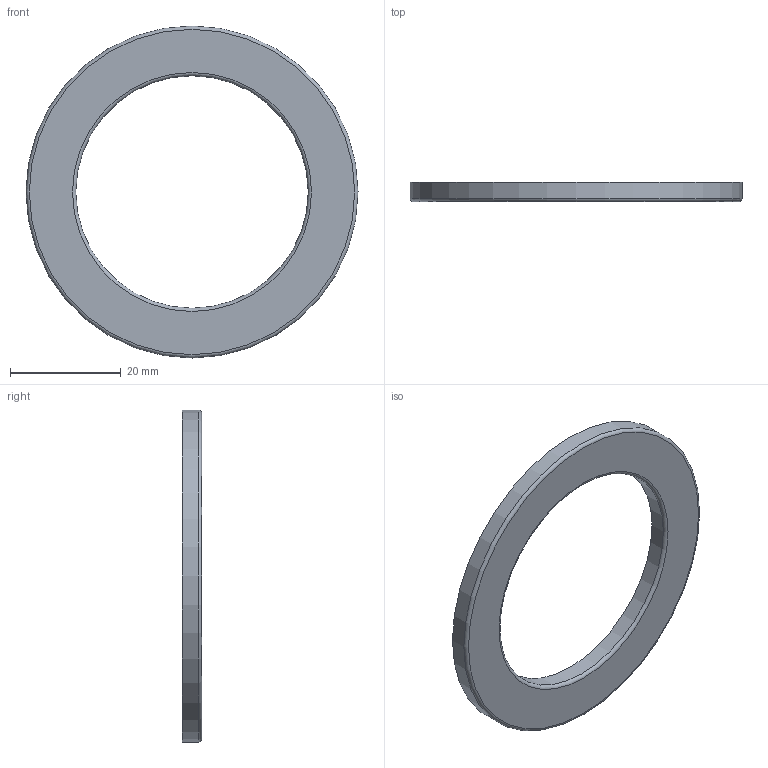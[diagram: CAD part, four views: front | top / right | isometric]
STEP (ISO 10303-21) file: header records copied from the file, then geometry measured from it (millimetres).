
FILE_DESCRIPTION(/* description */ (''),/* implementation_level */ '2;1');
FILE_NAME(/* name */ 'D:\moje\parametrické\811--\GS811--\GS81108.stp',/* time_stamp */ '2016-09-20T09:27:06+02:00',/* author */ ('OUBALASKO'),/* organization */ (''),/* preprocessor_version */ 'ST-DEVELOPER v15.6',/* originating_system */ 'Autodesk Inventor 2015',/* authorisation */ '');
FILE_SCHEMA (('AUTOMOTIVE_DESIGN { 1 0 10303 214 3 1 1 }'));
Length unit declared in the file: millimetre
Products named in the file (1): GS81108
Bounding box: 60 x 3.5 x 60 mm (x, y, z)
Volume: 5022.2 mm3; surface area: 3923 mm2
Topology: 1 solids, 1 shells, 6 faces, 10 edges, 6 vertices
Faces by surface type: cylinder 2, torus 2, plane 2
Full cylindrical faces by diameter (mm): 42 x1, 60 x1
Entity records: 152 total; most frequent: DIRECTION 26, CARTESIAN_POINT 19, AXIS2_PLACEMENT_3D 13, EDGE_LOOP 12, ORIENTED_EDGE 12, FACE_BOUND 6, FACE_OUTER_BOUND 6, CIRCLE 6
